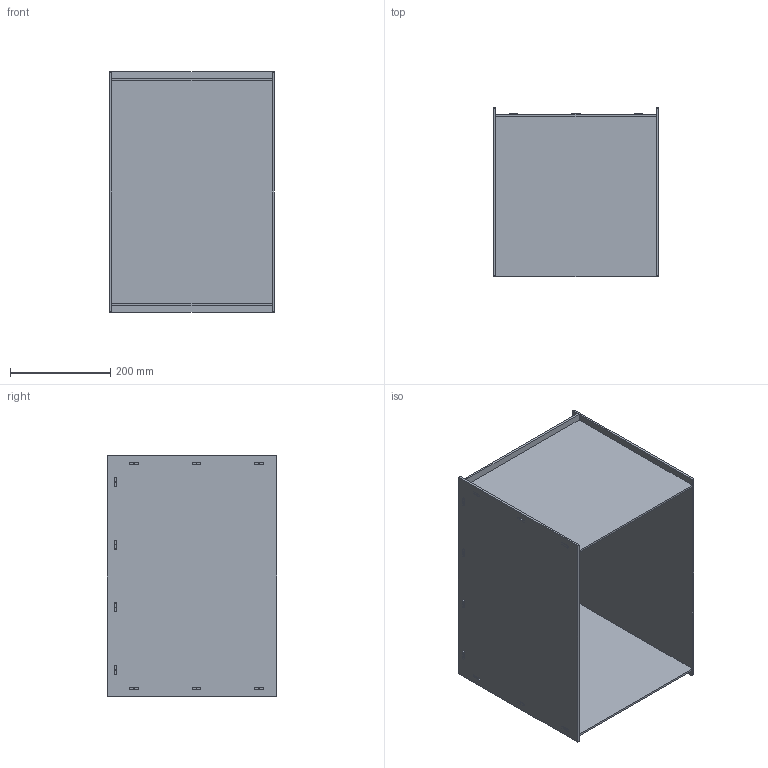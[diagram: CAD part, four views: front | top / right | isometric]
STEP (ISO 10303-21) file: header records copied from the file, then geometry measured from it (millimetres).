
FILE_DESCRIPTION(/* description */ (''),/* implementation_level */ '2;1');
FILE_NAME(/* name */ 'FRAMA_Rivet-Box-3D',/* time_stamp */ '2025-10-21T09:29:18+02:00',/* author */ (''),/* organization */ (''),/* preprocessor_version */ 'ST-DEVELOPER v16.5',/* originating_system */ 'Rhino 7.38',/* authorisation */ '');
FILE_SCHEMA (('CONFIG_CONTROL_DESIGN'));
Length unit declared in the file: millimetre
Products named in the file (1): Document
Bounding box: 331 x 338 x 481 mm (x, y, z)
Surface area: 1389650.6 mm2 (no closed solid volume)
Topology: 0 solids, 5 shells, 146 faces, 988 edges, 784 vertices
Faces by surface type: plane 138, cylinder 8
Entity records: 8284 total; most frequent: CARTESIAN_POINT 3236, ORIENTED_EDGE 1328, EDGE_CURVE 988, B_SPLINE_CURVE_WITH_KNOTS 868, VERTEX_POINT 784, EDGE_LOOP 198, DIRECTION 150, AXIS2_PLACEMENT_3D 148
